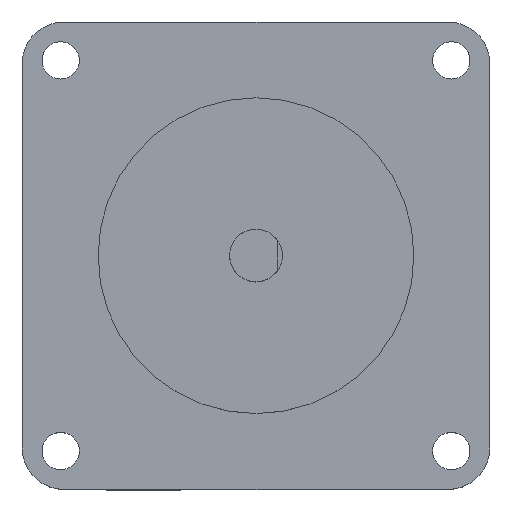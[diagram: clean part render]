
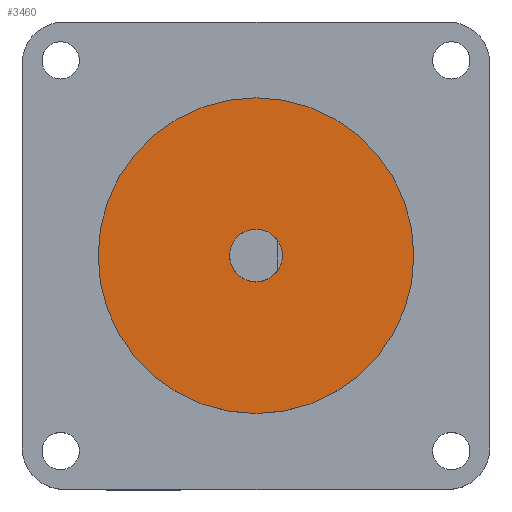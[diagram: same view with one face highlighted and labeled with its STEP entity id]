
A CAD part, top view. The second image highlights one B-rep face of the part: STEP entity #3460.
In plain terms, the highlighted planar face has unit normal (0, 0, 1).
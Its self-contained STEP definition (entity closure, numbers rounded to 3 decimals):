
#94 = EDGE_LOOP ( 'NONE', ( #619, #818 ) ) ;
#98 = DIRECTION ( 'NONE',  ( 0., 0., 1. ) ) ;
#130 = AXIS2_PLACEMENT_3D ( 'NONE', #988, #3287, #1324 ) ;
#195 = VERTEX_POINT ( 'NONE', #2954 ) ;
#433 = DIRECTION ( 'NONE',  ( 0., 0., 1. ) ) ;
#490 = EDGE_CURVE ( 'NONE', #4090, #195, #3869, .T. ) ;
#582 = FACE_OUTER_BOUND ( 'NONE', #2765, .T. ) ;
#592 = PLANE ( 'NONE',  #2676 ) ;
#619 = ORIENTED_EDGE ( 'NONE', *, *, #490, .T. ) ;
#653 = VERTEX_POINT ( 'NONE', #1585 ) ;
#682 = CIRCLE ( 'NONE', #1877, 19.05 ) ;
#818 = ORIENTED_EDGE ( 'NONE', *, *, #2232, .T. ) ;
#928 = DIRECTION ( 'NONE',  ( 1., 0., 0. ) ) ;
#948 = CARTESIAN_POINT ( 'NONE',  ( -3.175, 0., 1.6 ) ) ;
#988 = CARTESIAN_POINT ( 'NONE',  ( 0., 0., 1.6 ) ) ;
#1324 = DIRECTION ( 'NONE',  ( 1., 0., 0. ) ) ;
#1469 = AXIS2_PLACEMENT_3D ( 'NONE', #2078, #98, #2407 ) ;
#1478 = CARTESIAN_POINT ( 'NONE',  ( 0., 0., 1.6 ) ) ;
#1585 = CARTESIAN_POINT ( 'NONE',  ( -19.05, 0., 1.6 ) ) ;
#1599 = AXIS2_PLACEMENT_3D ( 'NONE', #1478, #3762, #1805 ) ;
#1805 = DIRECTION ( 'NONE',  ( 1., 0., 0. ) ) ;
#1877 = AXIS2_PLACEMENT_3D ( 'NONE', #2410, #433, #2741 ) ;
#2018 = CIRCLE ( 'NONE', #130, 3.175 ) ;
#2078 = CARTESIAN_POINT ( 'NONE',  ( 0., 0., 1.6 ) ) ;
#2232 = EDGE_CURVE ( 'NONE', #195, #4090, #2018, .T. ) ;
#2357 = EDGE_CURVE ( 'NONE', #2733, #653, #2684, .T. ) ;
#2407 = DIRECTION ( 'NONE',  ( 1., 0., 0. ) ) ;
#2410 = CARTESIAN_POINT ( 'NONE',  ( 0., 0., 1.6 ) ) ;
#2676 = AXIS2_PLACEMENT_3D ( 'NONE', #4195, #2891, #928 ) ;
#2684 = CIRCLE ( 'NONE', #1469, 19.05 ) ;
#2733 = VERTEX_POINT ( 'NONE', #3275 ) ;
#2741 = DIRECTION ( 'NONE',  ( 1., 0., 0. ) ) ;
#2765 = EDGE_LOOP ( 'NONE', ( #3624, #3501 ) ) ;
#2891 = DIRECTION ( 'NONE',  ( 0., 0., 1. ) ) ;
#2954 = CARTESIAN_POINT ( 'NONE',  ( 3.175, 0., 1.6 ) ) ;
#3209 = EDGE_CURVE ( 'NONE', #653, #2733, #682, .T. ) ;
#3211 = FACE_BOUND ( 'NONE', #94, .T. ) ;
#3275 = CARTESIAN_POINT ( 'NONE',  ( 19.05, 0., 1.6 ) ) ;
#3287 = DIRECTION ( 'NONE',  ( 0., 0., -1. ) ) ;
#3460 = ADVANCED_FACE ( 'NONE', ( #582, #3211 ), #592, .T. ) ;
#3501 = ORIENTED_EDGE ( 'NONE', *, *, #2357, .T. ) ;
#3624 = ORIENTED_EDGE ( 'NONE', *, *, #3209, .T. ) ;
#3762 = DIRECTION ( 'NONE',  ( 0., 0., -1. ) ) ;
#3869 = CIRCLE ( 'NONE', #1599, 3.175 ) ;
#4090 = VERTEX_POINT ( 'NONE', #948 ) ;
#4195 = CARTESIAN_POINT ( 'NONE',  ( 0., 0., 1.6 ) ) ;
